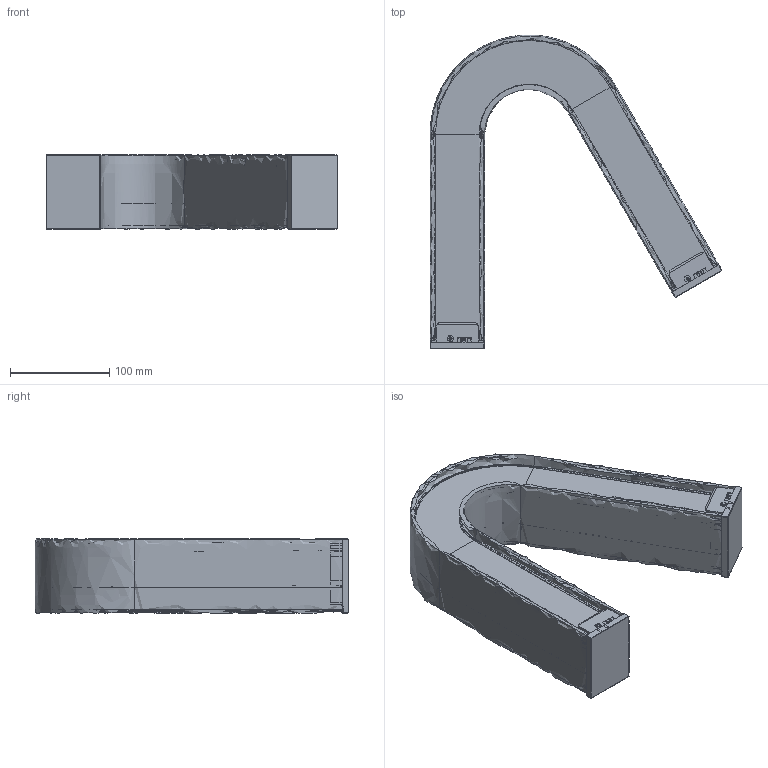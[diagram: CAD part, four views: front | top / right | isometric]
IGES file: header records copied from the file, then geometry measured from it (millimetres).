
Global section: file name: C:\Users\info\Desktop\CRIS\05. NEW PRODUCT\LUMINARIA KISS\3D para web\KISS A30 - IGS.igs; native system: Rhinoceros ( Feb 27 2019 ); preprocessor: Trout Lake IGES 012 Feb 27 2019; date: 260427.135419; units: millimetre
Bounding box: 294.65 x 316.74 x 75 mm (x, y, z)
Surface area: 485145.4 mm2 (no closed solid volume)
Topology: 0 solids, 0 shells, 1922 faces, 17364 edges, 17358 vertices
Faces by surface type: bspline 1922
